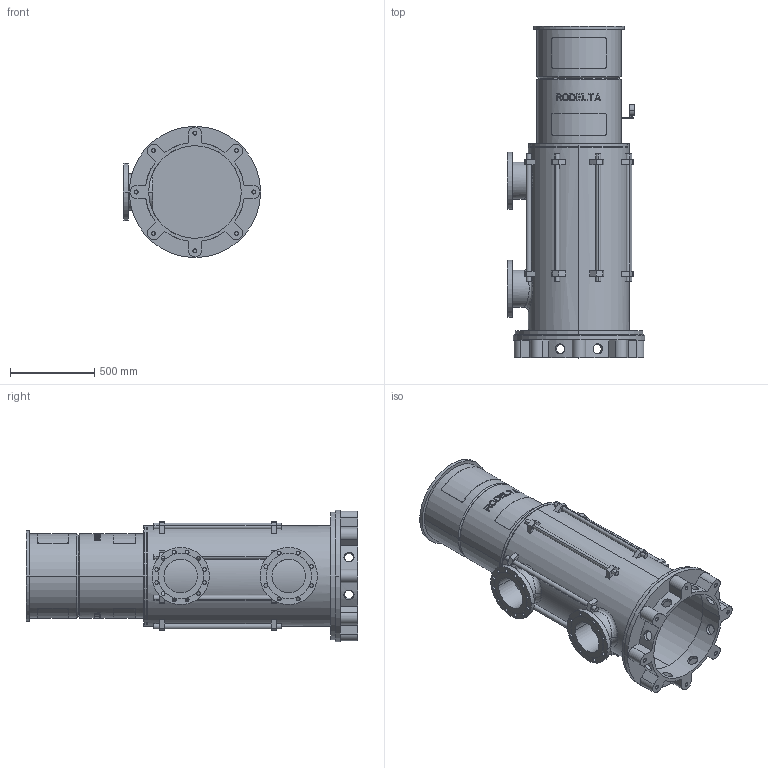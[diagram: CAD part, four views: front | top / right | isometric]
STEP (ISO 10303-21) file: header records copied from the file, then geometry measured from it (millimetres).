
FILE_DESCRIPTION((''),'2;1');
FILE_NAME('LS8_2TR_0GR','2025-10-17T12:55:24',('Lyritlocal'),(''),'CREO PARAMETRIC BY PTC INC, 2022014','CREO PARAMETRIC BY PTC INC, 2022014','');
FILE_SCHEMA(('CONFIG_CONTROL_DESIGN'));
Length unit declared in the file: millimetre
Products named in the file (1): LS8_2TR_0GR
Bounding box: 815 x 1972 x 780 mm (x, y, z)
Volume: 70966675.2 mm3; surface area: 9758257.8 mm2
Topology: 3 solids, 11 shells, 723 faces, 1878 edges, 1246 vertices
Faces by surface type: plane 440, cylinder 267, cone 12, bspline 4
Entity records: 23684 total; most frequent: CARTESIAN_POINT 6003, ORIENTED_EDGE 3724, DIRECTION 3488, EDGE_CURVE 1878, AXIS2_PLACEMENT_3D 1302, VERTEX_POINT 1246, EDGE_LOOP 888, VECTOR 884
